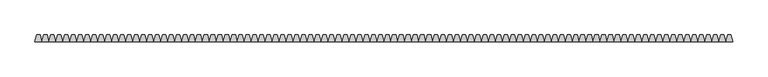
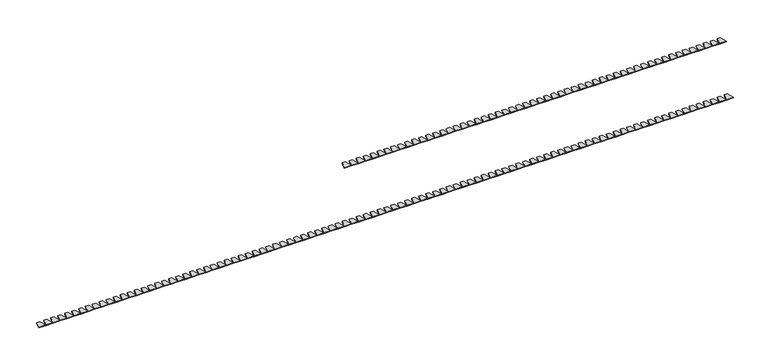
"""IFC4 building model written with IfcOpenShell, lengths in millimetres: duct fitting geometry, Полная крышка шириной 180 мм - для кабель-канала DLP 65x195 - 2м - белый : Полная крышка шириной 180 мм - для кабель-канала DLP 65x195 - 2м - белый."""

from ifc_helpers import new_model, si_unit, frame, origin, place, context, project, spatial, polyline, outline, extrude, source, transform, mapped, element, save


def duct_fitting_515ab3ab(model_context):
    return source(origin(), model_context, "Body", "SweptSolid", [
        extrude(outline(polyline([(974.6410162, 20.0), (980.0, 0.0), (960.0, 0.0), (965.7349077, 20.0), (974.6410162, 20.0)])), frame((0.0, 0.0, -90.0), z_axis=(0.0, 0.0, 1.0), x_axis=(1.0, 0.0, 0.0)), (0.0, 0.0, 1.0), 2.0),
        extrude(outline(polyline([(954.6410162, 20.0), (960.0, 0.0), (940.0, 0.0), (945.7349077, 20.0), (954.6410162, 20.0)])), frame((0.0, 0.0, -90.0), z_axis=(0.0, 0.0, 1.0), x_axis=(1.0, 0.0, 0.0)), (0.0, 0.0, 1.0), 2.0),
        extrude(outline(polyline([(934.6410162, 20.0), (940.0, 0.0), (920.0, 0.0), (925.7349077, 20.0), (934.6410162, 20.0)])), frame((0.0, 0.0, -90.0), z_axis=(0.0, 0.0, 1.0), x_axis=(1.0, 0.0, 0.0)), (0.0, 0.0, 1.0), 2.0),
        extrude(outline(polyline([(914.6410162, 20.0), (920.0, 0.0), (900.0, 0.0), (905.7349077, 20.0), (914.6410162, 20.0)])), frame((0.0, 0.0, -90.0), z_axis=(0.0, 0.0, 1.0), x_axis=(1.0, 0.0, 0.0)), (0.0, 0.0, 1.0), 2.0),
        extrude(outline(polyline([(894.6410162, 20.0), (900.0, 0.0), (880.0, 0.0), (885.7349077, 20.0), (894.6410162, 20.0)])), frame((0.0, 0.0, -90.0), z_axis=(0.0, 0.0, 1.0), x_axis=(1.0, 0.0, 0.0)), (0.0, 0.0, 1.0), 2.0),
        extrude(outline(polyline([(874.6410162, 20.0), (880.0, 0.0), (860.0, 0.0), (865.7349077, 20.0), (874.6410162, 20.0)])), frame((0.0, 0.0, -90.0), z_axis=(0.0, 0.0, 1.0), x_axis=(1.0, 0.0, 0.0)), (0.0, 0.0, 1.0), 2.0),
        extrude(outline(polyline([(854.6410162, 20.0), (860.0, 0.0), (840.0, 0.0), (845.7349077, 20.0), (854.6410162, 20.0)])), frame((0.0, 0.0, -90.0), z_axis=(0.0, 0.0, 1.0), x_axis=(1.0, 0.0, 0.0)), (0.0, 0.0, 1.0), 2.0),
        extrude(outline(polyline([(834.6410162, 20.0), (840.0, 0.0), (820.0, 0.0), (825.7349077, 20.0), (834.6410162, 20.0)])), frame((0.0, 0.0, -90.0), z_axis=(0.0, 0.0, 1.0), x_axis=(1.0, 0.0, 0.0)), (0.0, 0.0, 1.0), 2.0),
        extrude(outline(polyline([(814.6410162, 20.0), (820.0, 0.0), (800.0, 0.0), (805.7349077, 20.0), (814.6410162, 20.0)])), frame((0.0, 0.0, -90.0), z_axis=(0.0, 0.0, 1.0), x_axis=(1.0, 0.0, 0.0)), (0.0, 0.0, 1.0), 2.0),
        extrude(outline(polyline([(794.6410162, 20.0), (800.0, 0.0), (780.0, 0.0), (785.7349077, 20.0), (794.6410162, 20.0)])), frame((0.0, 0.0, -90.0), z_axis=(0.0, 0.0, 1.0), x_axis=(1.0, 0.0, 0.0)), (0.0, 0.0, 1.0), 2.0),
        extrude(outline(polyline([(774.6410162, 20.0), (780.0, 0.0), (760.0, 0.0), (765.7349077, 20.0), (774.6410162, 20.0)])), frame((0.0, 0.0, -90.0), z_axis=(0.0, 0.0, 1.0), x_axis=(1.0, 0.0, 0.0)), (0.0, 0.0, 1.0), 2.0),
        extrude(outline(polyline([(754.6410162, 20.0), (760.0, 0.0), (740.0, 0.0), (745.7349077, 20.0), (754.6410162, 20.0)])), frame((0.0, 0.0, -90.0), z_axis=(0.0, 0.0, 1.0), x_axis=(1.0, 0.0, 0.0)), (0.0, 0.0, 1.0), 2.0),
        extrude(outline(polyline([(734.6410162, 20.0), (740.0, 0.0), (720.0, 0.0), (725.7349077, 20.0), (734.6410162, 20.0)])), frame((0.0, 0.0, -90.0), z_axis=(0.0, 0.0, 1.0), x_axis=(1.0, 0.0, 0.0)), (0.0, 0.0, 1.0), 2.0),
        extrude(outline(polyline([(714.6410162, 20.0), (720.0, 0.0), (700.0, 0.0), (705.7349077, 20.0), (714.6410162, 20.0)])), frame((0.0, 0.0, -90.0), z_axis=(0.0, 0.0, 1.0), x_axis=(1.0, 0.0, 0.0)), (0.0, 0.0, 1.0), 2.0),
        extrude(outline(polyline([(694.6410162, 20.0), (700.0, 0.0), (680.0, 0.0), (685.7349077, 20.0), (694.6410162, 20.0)])), frame((0.0, 0.0, -90.0), z_axis=(0.0, 0.0, 1.0), x_axis=(1.0, 0.0, 0.0)), (0.0, 0.0, 1.0), 2.0),
        extrude(outline(polyline([(674.6410162, 20.0), (680.0, 0.0), (660.0, 0.0), (665.7349077, 20.0), (674.6410162, 20.0)])), frame((0.0, 0.0, -90.0), z_axis=(0.0, 0.0, 1.0), x_axis=(1.0, 0.0, 0.0)), (0.0, 0.0, 1.0), 2.0),
        extrude(outline(polyline([(654.6410162, 20.0), (660.0, 0.0), (640.0, 0.0), (645.7349077, 20.0), (654.6410162, 20.0)])), frame((0.0, 0.0, -90.0), z_axis=(0.0, 0.0, 1.0), x_axis=(1.0, 0.0, 0.0)), (0.0, 0.0, 1.0), 2.0),
        extrude(outline(polyline([(634.6410162, 20.0), (640.0, 0.0), (620.0, 0.0), (625.7349077, 20.0), (634.6410162, 20.0)])), frame((0.0, 0.0, -90.0), z_axis=(0.0, 0.0, 1.0), x_axis=(1.0, 0.0, 0.0)), (0.0, 0.0, 1.0), 2.0),
        extrude(outline(polyline([(614.6410162, 20.0), (620.0, 0.0), (600.0, 0.0), (605.7349077, 20.0), (614.6410162, 20.0)])), frame((0.0, 0.0, -90.0), z_axis=(0.0, 0.0, 1.0), x_axis=(1.0, 0.0, 0.0)), (0.0, 0.0, 1.0), 2.0),
        extrude(outline(polyline([(594.6410162, 20.0), (600.0, 0.0), (580.0, 0.0), (585.7349077, 20.0), (594.6410162, 20.0)])), frame((0.0, 0.0, -90.0), z_axis=(0.0, 0.0, 1.0), x_axis=(1.0, 0.0, 0.0)), (0.0, 0.0, 1.0), 2.0),
        extrude(outline(polyline([(574.6410162, 20.0), (580.0, 0.0), (560.0, 0.0), (565.7349077, 20.0), (574.6410162, 20.0)])), frame((0.0, 0.0, -90.0), z_axis=(0.0, 0.0, 1.0), x_axis=(1.0, 0.0, 0.0)), (0.0, 0.0, 1.0), 2.0),
        extrude(outline(polyline([(554.6410162, 20.0), (560.0, 0.0), (540.0, 0.0), (545.7349077, 20.0), (554.6410162, 20.0)])), frame((0.0, 0.0, -90.0), z_axis=(0.0, 0.0, 1.0), x_axis=(1.0, 0.0, 0.0)), (0.0, 0.0, 1.0), 2.0),
        extrude(outline(polyline([(534.6410162, 20.0), (540.0, 0.0), (520.0, 0.0), (525.7349077, 20.0), (534.6410162, 20.0)])), frame((0.0, 0.0, -90.0), z_axis=(0.0, 0.0, 1.0), x_axis=(1.0, 0.0, 0.0)), (0.0, 0.0, 1.0), 2.0),
        extrude(outline(polyline([(514.6410162, 20.0), (520.0, 0.0), (500.0, 0.0), (505.7349077, 20.0), (514.6410162, 20.0)])), frame((0.0, 0.0, -90.0), z_axis=(0.0, 0.0, 1.0), x_axis=(1.0, 0.0, 0.0)), (0.0, 0.0, 1.0), 2.0),
        extrude(outline(polyline([(494.6410162, 20.0), (500.0, 0.0), (480.0, 0.0), (485.7349077, 20.0), (494.6410162, 20.0)])), frame((0.0, 0.0, -90.0), z_axis=(0.0, 0.0, 1.0), x_axis=(1.0, 0.0, 0.0)), (0.0, 0.0, 1.0), 2.0),
        extrude(outline(polyline([(474.6410162, 20.0), (480.0, 0.0), (460.0, 0.0), (465.7349077, 20.0), (474.6410162, 20.0)])), frame((0.0, 0.0, -90.0), z_axis=(0.0, 0.0, 1.0), x_axis=(1.0, 0.0, 0.0)), (0.0, 0.0, 1.0), 2.0),
        extrude(outline(polyline([(454.6410162, 20.0), (460.0, 0.0), (440.0, 0.0), (445.7349077, 20.0), (454.6410162, 20.0)])), frame((0.0, 0.0, -90.0), z_axis=(0.0, 0.0, 1.0), x_axis=(1.0, 0.0, 0.0)), (0.0, 0.0, 1.0), 2.0),
        extrude(outline(polyline([(434.6410162, 20.0), (440.0, 0.0), (420.0, 0.0), (425.7349077, 20.0), (434.6410162, 20.0)])), frame((0.0, 0.0, -90.0), z_axis=(0.0, 0.0, 1.0), x_axis=(1.0, 0.0, 0.0)), (0.0, 0.0, 1.0), 2.0),
        extrude(outline(polyline([(414.6410162, 20.0), (420.0, 0.0), (400.0, 0.0), (405.7349077, 20.0), (414.6410162, 20.0)])), frame((0.0, 0.0, -90.0), z_axis=(0.0, 0.0, 1.0), x_axis=(1.0, 0.0, 0.0)), (0.0, 0.0, 1.0), 2.0),
        extrude(outline(polyline([(394.6410162, 20.0), (400.0, 0.0), (380.0, 0.0), (385.7349077, 20.0), (394.6410162, 20.0)])), frame((0.0, 0.0, -90.0), z_axis=(0.0, 0.0, 1.0), x_axis=(1.0, 0.0, 0.0)), (0.0, 0.0, 1.0), 2.0),
        extrude(outline(polyline([(374.6410162, 20.0), (380.0, 0.0), (360.0, 0.0), (365.7349077, 20.0), (374.6410162, 20.0)])), frame((0.0, 0.0, -90.0), z_axis=(0.0, 0.0, 1.0), x_axis=(1.0, 0.0, 0.0)), (0.0, 0.0, 1.0), 2.0),
        extrude(outline(polyline([(354.6410162, 20.0), (360.0, 0.0), (340.0, 0.0), (345.7349077, 20.0), (354.6410162, 20.0)])), frame((0.0, 0.0, -90.0), z_axis=(0.0, 0.0, 1.0), x_axis=(1.0, 0.0, 0.0)), (0.0, 0.0, 1.0), 2.0),
        extrude(outline(polyline([(334.6410162, 20.0), (340.0, 0.0), (320.0, 0.0), (325.7349077, 20.0), (334.6410162, 20.0)])), frame((0.0, 0.0, -90.0), z_axis=(0.0, 0.0, 1.0), x_axis=(1.0, 0.0, 0.0)), (0.0, 0.0, 1.0), 2.0),
        extrude(outline(polyline([(314.6410162, 20.0), (320.0, 0.0), (300.0, 0.0), (305.7349077, 20.0), (314.6410162, 20.0)])), frame((0.0, 0.0, -90.0), z_axis=(0.0, 0.0, 1.0), x_axis=(1.0, 0.0, 0.0)), (0.0, 0.0, 1.0), 2.0),
        extrude(outline(polyline([(294.6410162, 20.0), (300.0, 0.0), (280.0, 0.0), (285.7349077, 20.0), (294.6410162, 20.0)])), frame((0.0, 0.0, -90.0), z_axis=(0.0, 0.0, 1.0), x_axis=(1.0, 0.0, 0.0)), (0.0, 0.0, 1.0), 2.0),
        extrude(outline(polyline([(274.6410162, 20.0), (280.0, 0.0), (260.0, 0.0), (265.7349077, 20.0), (274.6410162, 20.0)])), frame((0.0, 0.0, -90.0), z_axis=(0.0, 0.0, 1.0), x_axis=(1.0, 0.0, 0.0)), (0.0, 0.0, 1.0), 2.0),
        extrude(outline(polyline([(254.6410162, 20.0), (260.0, 0.0), (240.0, 0.0), (245.7349077, 20.0), (254.6410162, 20.0)])), frame((0.0, 0.0, -90.0), z_axis=(0.0, 0.0, 1.0), x_axis=(1.0, 0.0, 0.0)), (0.0, 0.0, 1.0), 2.0),
        extrude(outline(polyline([(234.6410162, 20.0), (240.0, 0.0), (220.0, 0.0), (225.7349077, 20.0), (234.6410162, 20.0)])), frame((0.0, 0.0, -90.0), z_axis=(0.0, 0.0, 1.0), x_axis=(1.0, 0.0, 0.0)), (0.0, 0.0, 1.0), 2.0),
        extrude(outline(polyline([(214.6410162, 20.0), (220.0, 0.0), (200.0, 0.0), (205.7349077, 20.0), (214.6410162, 20.0)])), frame((0.0, 0.0, -90.0), z_axis=(0.0, 0.0, 1.0), x_axis=(1.0, 0.0, 0.0)), (0.0, 0.0, 1.0), 2.0),
        extrude(outline(polyline([(194.6410162, 20.0), (200.0, 0.0), (180.0, 0.0), (185.7349077, 20.0), (194.6410162, 20.0)])), frame((0.0, 0.0, -90.0), z_axis=(0.0, 0.0, 1.0), x_axis=(1.0, 0.0, 0.0)), (0.0, 0.0, 1.0), 2.0),
        extrude(outline(polyline([(174.6410162, 20.0), (180.0, 0.0), (160.0, 0.0), (165.7349077, 20.0), (174.6410162, 20.0)])), frame((0.0, 0.0, -90.0), z_axis=(0.0, 0.0, 1.0), x_axis=(1.0, 0.0, 0.0)), (0.0, 0.0, 1.0), 2.0),
        extrude(outline(polyline([(154.6410162, 20.0), (160.0, 0.0), (140.0, 0.0), (145.7349077, 20.0), (154.6410162, 20.0)])), frame((0.0, 0.0, -90.0), z_axis=(0.0, 0.0, 1.0), x_axis=(1.0, 0.0, 0.0)), (0.0, 0.0, 1.0), 2.0),
        extrude(outline(polyline([(134.6410162, 20.0), (140.0, 0.0), (120.0, 0.0), (125.7349077, 20.0), (134.6410162, 20.0)])), frame((0.0, 0.0, -90.0), z_axis=(0.0, 0.0, 1.0), x_axis=(1.0, 0.0, 0.0)), (0.0, 0.0, 1.0), 2.0),
        extrude(outline(polyline([(114.6410162, 20.0), (120.0, 0.0), (100.0, 0.0), (105.7349077, 20.0), (114.6410162, 20.0)])), frame((0.0, 0.0, -90.0), z_axis=(0.0, 0.0, 1.0), x_axis=(1.0, 0.0, 0.0)), (0.0, 0.0, 1.0), 2.0),
        extrude(outline(polyline([(94.6410162, 20.0), (100.0, 0.0), (80.0, 0.0), (85.7349077, 20.0), (94.6410162, 20.0)])), frame((0.0, 0.0, -90.0), z_axis=(0.0, 0.0, 1.0), x_axis=(1.0, 0.0, 0.0)), (0.0, 0.0, 1.0), 2.0),
        extrude(outline(polyline([(74.6410162, 20.0), (80.0, 0.0), (60.0, 0.0), (65.7349077, 20.0), (74.6410162, 20.0)])), frame((0.0, 0.0, -90.0), z_axis=(0.0, 0.0, 1.0), x_axis=(1.0, 0.0, 0.0)), (0.0, 0.0, 1.0), 2.0),
        extrude(outline(polyline([(54.6410162, 20.0), (60.0, 0.0), (40.0, 0.0), (45.7349077, 20.0), (54.6410162, 20.0)])), frame((0.0, 0.0, -90.0), z_axis=(0.0, 0.0, 1.0), x_axis=(1.0, 0.0, 0.0)), (0.0, 0.0, 1.0), 2.0),
        extrude(outline(polyline([(34.6410162, 20.0), (40.0, 0.0), (20.0, 0.0), (25.7349077, 20.0), (34.6410162, 20.0)])), frame((0.0, 0.0, -90.0), z_axis=(0.0, 0.0, 1.0), x_axis=(1.0, 0.0, 0.0)), (0.0, 0.0, 1.0), 2.0),
        extrude(outline(polyline([(14.6410162, 20.0), (20.0, 0.0), (0.0, 0.0), (5.7349077, 20.0), (14.6410162, 20.0)])), frame((0.0, 0.0, -90.0), z_axis=(0.0, 0.0, 1.0), x_axis=(1.0, 0.0, 0.0)), (0.0, 0.0, 1.0), 2.0),
        extrude(outline(polyline([(-5.3589838, 20.0), (0.0, 0.0), (-20.0, 0.0), (-14.2650923, 20.0), (-5.3589838, 20.0)])), frame((0.0, 0.0, -90.0), z_axis=(0.0, 0.0, 1.0), x_axis=(1.0, 0.0, 0.0)), (0.0, 0.0, 1.0), 2.0),
        extrude(outline(polyline([(-25.3589838, 20.0), (-20.0, 0.0), (-40.0, 0.0), (-34.2650923, 20.0), (-25.3589838, 20.0)])), frame((0.0, 0.0, -90.0), z_axis=(0.0, 0.0, 1.0), x_axis=(1.0, 0.0, 0.0)), (0.0, 0.0, 1.0), 2.0),
        extrude(outline(polyline([(-45.3589838, 20.0), (-40.0, 0.0), (-60.0, 0.0), (-54.2650923, 20.0), (-45.3589838, 20.0)])), frame((0.0, 0.0, -90.0), z_axis=(0.0, 0.0, 1.0), x_axis=(1.0, 0.0, 0.0)), (0.0, 0.0, 1.0), 2.0),
        extrude(outline(polyline([(-65.3589838, 20.0), (-60.0, 0.0), (-80.0, 0.0), (-74.2650923, 20.0), (-65.3589838, 20.0)])), frame((0.0, 0.0, -90.0), z_axis=(0.0, 0.0, 1.0), x_axis=(1.0, 0.0, 0.0)), (0.0, 0.0, 1.0), 2.0),
        extrude(outline(polyline([(-85.3589838, 20.0), (-80.0, 0.0), (-100.0, 0.0), (-94.2650923, 20.0), (-85.3589838, 20.0)])), frame((0.0, 0.0, -90.0), z_axis=(0.0, 0.0, 1.0), x_axis=(1.0, 0.0, 0.0)), (0.0, 0.0, 1.0), 2.0),
        extrude(outline(polyline([(-105.3589838, 20.0), (-100.0, 0.0), (-120.0, 0.0), (-114.2650923, 20.0), (-105.3589838, 20.0)])), frame((0.0, 0.0, -90.0), z_axis=(0.0, 0.0, 1.0), x_axis=(1.0, 0.0, 0.0)), (0.0, 0.0, 1.0), 2.0),
        extrude(outline(polyline([(-125.3589838, 20.0), (-120.0, 0.0), (-140.0, 0.0), (-134.2650923, 20.0), (-125.3589838, 20.0)])), frame((0.0, 0.0, -90.0), z_axis=(0.0, 0.0, 1.0), x_axis=(1.0, 0.0, 0.0)), (0.0, 0.0, 1.0), 2.0),
        extrude(outline(polyline([(-145.3589838, 20.0), (-140.0, 0.0), (-160.0, 0.0), (-154.2650923, 20.0), (-145.3589838, 20.0)])), frame((0.0, 0.0, -90.0), z_axis=(0.0, 0.0, 1.0), x_axis=(1.0, 0.0, 0.0)), (0.0, 0.0, 1.0), 2.0),
        extrude(outline(polyline([(-165.3589838, 20.0), (-160.0, 0.0), (-180.0, 0.0), (-174.2650923, 20.0), (-165.3589838, 20.0)])), frame((0.0, 0.0, -90.0), z_axis=(0.0, 0.0, 1.0), x_axis=(1.0, 0.0, 0.0)), (0.0, 0.0, 1.0), 2.0),
        extrude(outline(polyline([(-185.3589838, 20.0), (-180.0, 0.0), (-200.0, 0.0), (-194.2650923, 20.0), (-185.3589838, 20.0)])), frame((0.0, 0.0, -90.0), z_axis=(0.0, 0.0, 1.0), x_axis=(1.0, 0.0, 0.0)), (0.0, 0.0, 1.0), 2.0),
        extrude(outline(polyline([(-205.3589838, 20.0), (-200.0, 0.0), (-220.0, 0.0), (-214.2650923, 20.0), (-205.3589838, 20.0)])), frame((0.0, 0.0, -90.0), z_axis=(0.0, 0.0, 1.0), x_axis=(1.0, 0.0, 0.0)), (0.0, 0.0, 1.0), 2.0),
        extrude(outline(polyline([(-225.3589838, 20.0), (-220.0, 0.0), (-240.0, 0.0), (-234.2650923, 20.0), (-225.3589838, 20.0)])), frame((0.0, 0.0, -90.0), z_axis=(0.0, 0.0, 1.0), x_axis=(1.0, 0.0, 0.0)), (0.0, 0.0, 1.0), 2.0),
        extrude(outline(polyline([(-245.3589838, 20.0), (-240.0, 0.0), (-260.0, 0.0), (-254.2650923, 20.0), (-245.3589838, 20.0)])), frame((0.0, 0.0, -90.0), z_axis=(0.0, 0.0, 1.0), x_axis=(1.0, 0.0, 0.0)), (0.0, 0.0, 1.0), 2.0),
        extrude(outline(polyline([(-265.3589838, 20.0), (-260.0, 0.0), (-280.0, 0.0), (-274.2650923, 20.0), (-265.3589838, 20.0)])), frame((0.0, 0.0, -90.0), z_axis=(0.0, 0.0, 1.0), x_axis=(1.0, 0.0, 0.0)), (0.0, 0.0, 1.0), 2.0),
        extrude(outline(polyline([(-285.3589838, 20.0), (-280.0, 0.0), (-300.0, 0.0), (-294.2650923, 20.0), (-285.3589838, 20.0)])), frame((0.0, 0.0, -90.0), z_axis=(0.0, 0.0, 1.0), x_axis=(1.0, 0.0, 0.0)), (0.0, 0.0, 1.0), 2.0),
        extrude(outline(polyline([(-305.3589838, 20.0), (-300.0, 0.0), (-320.0, 0.0), (-314.2650923, 20.0), (-305.3589838, 20.0)])), frame((0.0, 0.0, -90.0), z_axis=(0.0, 0.0, 1.0), x_axis=(1.0, 0.0, 0.0)), (0.0, 0.0, 1.0), 2.0),
        extrude(outline(polyline([(-325.3589838, 20.0), (-320.0, 0.0), (-340.0, 0.0), (-334.2650923, 20.0), (-325.3589838, 20.0)])), frame((0.0, 0.0, -90.0), z_axis=(0.0, 0.0, 1.0), x_axis=(1.0, 0.0, 0.0)), (0.0, 0.0, 1.0), 2.0),
        extrude(outline(polyline([(-345.3589838, 20.0), (-340.0, 0.0), (-360.0, 0.0), (-354.2650923, 20.0), (-345.3589838, 20.0)])), frame((0.0, 0.0, -90.0), z_axis=(0.0, 0.0, 1.0), x_axis=(1.0, 0.0, 0.0)), (0.0, 0.0, 1.0), 2.0),
        extrude(outline(polyline([(-365.3589838, 20.0), (-360.0, 0.0), (-380.0, 0.0), (-374.2650923, 20.0), (-365.3589838, 20.0)])), frame((0.0, 0.0, -90.0), z_axis=(0.0, 0.0, 1.0), x_axis=(1.0, 0.0, 0.0)), (0.0, 0.0, 1.0), 2.0),
        extrude(outline(polyline([(-385.3589838, 20.0), (-380.0, 0.0), (-400.0, 0.0), (-394.2650923, 20.0), (-385.3589838, 20.0)])), frame((0.0, 0.0, -90.0), z_axis=(0.0, 0.0, 1.0), x_axis=(1.0, 0.0, 0.0)), (0.0, 0.0, 1.0), 2.0),
        extrude(outline(polyline([(-405.3589838, 20.0), (-400.0, 0.0), (-420.0, 0.0), (-414.2650923, 20.0), (-405.3589838, 20.0)])), frame((0.0, 0.0, -90.0), z_axis=(0.0, 0.0, 1.0), x_axis=(1.0, 0.0, 0.0)), (0.0, 0.0, 1.0), 2.0),
        extrude(outline(polyline([(-425.3589838, 20.0), (-420.0, 0.0), (-440.0, 0.0), (-434.2650923, 20.0), (-425.3589838, 20.0)])), frame((0.0, 0.0, -90.0), z_axis=(0.0, 0.0, 1.0), x_axis=(1.0, 0.0, 0.0)), (0.0, 0.0, 1.0), 2.0),
        extrude(outline(polyline([(-445.3589838, 20.0), (-440.0, 0.0), (-460.0, 0.0), (-454.2650923, 20.0), (-445.3589838, 20.0)])), frame((0.0, 0.0, -90.0), z_axis=(0.0, 0.0, 1.0), x_axis=(1.0, 0.0, 0.0)), (0.0, 0.0, 1.0), 2.0),
        extrude(outline(polyline([(-465.3589838, 20.0), (-460.0, 0.0), (-480.0, 0.0), (-474.2650923, 20.0), (-465.3589838, 20.0)])), frame((0.0, 0.0, -90.0), z_axis=(0.0, 0.0, 1.0), x_axis=(1.0, 0.0, 0.0)), (0.0, 0.0, 1.0), 2.0),
        extrude(outline(polyline([(-485.3589838, 20.0), (-480.0, 0.0), (-500.0, 0.0), (-494.2650923, 20.0), (-485.3589838, 20.0)])), frame((0.0, 0.0, -90.0), z_axis=(0.0, 0.0, 1.0), x_axis=(1.0, 0.0, 0.0)), (0.0, 0.0, 1.0), 2.0),
        extrude(outline(polyline([(-505.3589838, 20.0), (-500.0, 0.0), (-520.0, 0.0), (-514.2650923, 20.0), (-505.3589838, 20.0)])), frame((0.0, 0.0, -90.0), z_axis=(0.0, 0.0, 1.0), x_axis=(1.0, 0.0, 0.0)), (0.0, 0.0, 1.0), 2.0),
        extrude(outline(polyline([(-525.3589838, 20.0), (-520.0, 0.0), (-540.0, 0.0), (-534.2650923, 20.0), (-525.3589838, 20.0)])), frame((0.0, 0.0, -90.0), z_axis=(0.0, 0.0, 1.0), x_axis=(1.0, 0.0, 0.0)), (0.0, 0.0, 1.0), 2.0),
        extrude(outline(polyline([(-545.3589838, 20.0), (-540.0, 0.0), (-560.0, 0.0), (-554.2650923, 20.0), (-545.3589838, 20.0)])), frame((0.0, 0.0, -90.0), z_axis=(0.0, 0.0, 1.0), x_axis=(1.0, 0.0, 0.0)), (0.0, 0.0, 1.0), 2.0),
        extrude(outline(polyline([(-565.3589838, 20.0), (-560.0, 0.0), (-580.0, 0.0), (-574.2650923, 20.0), (-565.3589838, 20.0)])), frame((0.0, 0.0, -90.0), z_axis=(0.0, 0.0, 1.0), x_axis=(1.0, 0.0, 0.0)), (0.0, 0.0, 1.0), 2.0),
        extrude(outline(polyline([(-585.3589838, 20.0), (-580.0, 0.0), (-600.0, 0.0), (-594.2650923, 20.0), (-585.3589838, 20.0)])), frame((0.0, 0.0, -90.0), z_axis=(0.0, 0.0, 1.0), x_axis=(1.0, 0.0, 0.0)), (0.0, 0.0, 1.0), 2.0),
        extrude(outline(polyline([(-605.3589838, 20.0), (-600.0, 0.0), (-620.0, 0.0), (-614.2650923, 20.0), (-605.3589838, 20.0)])), frame((0.0, 0.0, -90.0), z_axis=(0.0, 0.0, 1.0), x_axis=(1.0, 0.0, 0.0)), (0.0, 0.0, 1.0), 2.0),
        extrude(outline(polyline([(-625.3589838, 20.0), (-620.0, 0.0), (-640.0, 0.0), (-634.2650923, 20.0), (-625.3589838, 20.0)])), frame((0.0, 0.0, -90.0), z_axis=(0.0, 0.0, 1.0), x_axis=(1.0, 0.0, 0.0)), (0.0, 0.0, 1.0), 2.0),
        extrude(outline(polyline([(-645.3589838, 20.0), (-640.0, 0.0), (-660.0, 0.0), (-654.2650923, 20.0), (-645.3589838, 20.0)])), frame((0.0, 0.0, -90.0), z_axis=(0.0, 0.0, 1.0), x_axis=(1.0, 0.0, 0.0)), (0.0, 0.0, 1.0), 2.0),
        extrude(outline(polyline([(-665.3589838, 20.0), (-660.0, 0.0), (-680.0, 0.0), (-674.2650923, 20.0), (-665.3589838, 20.0)])), frame((0.0, 0.0, -90.0), z_axis=(0.0, 0.0, 1.0), x_axis=(1.0, 0.0, 0.0)), (0.0, 0.0, 1.0), 2.0),
        extrude(outline(polyline([(-685.3589838, 20.0), (-680.0, 0.0), (-700.0, 0.0), (-694.2650923, 20.0), (-685.3589838, 20.0)])), frame((0.0, 0.0, -90.0), z_axis=(0.0, 0.0, 1.0), x_axis=(1.0, 0.0, 0.0)), (0.0, 0.0, 1.0), 2.0),
        extrude(outline(polyline([(-705.3589838, 20.0), (-700.0, 0.0), (-720.0, 0.0), (-714.2650923, 20.0), (-705.3589838, 20.0)])), frame((0.0, 0.0, -90.0), z_axis=(0.0, 0.0, 1.0), x_axis=(1.0, 0.0, 0.0)), (0.0, 0.0, 1.0), 2.0),
        extrude(outline(polyline([(-725.3589838, 20.0), (-720.0, 0.0), (-740.0, 0.0), (-734.2650923, 20.0), (-725.3589838, 20.0)])), frame((0.0, 0.0, -90.0), z_axis=(0.0, 0.0, 1.0), x_axis=(1.0, 0.0, 0.0)), (0.0, 0.0, 1.0), 2.0),
        extrude(outline(polyline([(-745.3589838, 20.0), (-740.0, 0.0), (-760.0, 0.0), (-754.2650923, 20.0), (-745.3589838, 20.0)])), frame((0.0, 0.0, -90.0), z_axis=(0.0, 0.0, 1.0), x_axis=(1.0, 0.0, 0.0)), (0.0, 0.0, 1.0), 2.0),
        extrude(outline(polyline([(-765.3589838, 20.0), (-760.0, 0.0), (-780.0, 0.0), (-774.2650923, 20.0), (-765.3589838, 20.0)])), frame((0.0, 0.0, -90.0), z_axis=(0.0, 0.0, 1.0), x_axis=(1.0, 0.0, 0.0)), (0.0, 0.0, 1.0), 2.0),
        extrude(outline(polyline([(-785.3589838, 20.0), (-780.0, 0.0), (-800.0, 0.0), (-794.2650923, 20.0), (-785.3589838, 20.0)])), frame((0.0, 0.0, -90.0), z_axis=(0.0, 0.0, 1.0), x_axis=(1.0, 0.0, 0.0)), (0.0, 0.0, 1.0), 2.0),
        extrude(outline(polyline([(-805.3589838, 20.0), (-800.0, 0.0), (-820.0, 0.0), (-814.2650923, 20.0), (-805.3589838, 20.0)])), frame((0.0, 0.0, -90.0), z_axis=(0.0, 0.0, 1.0), x_axis=(1.0, 0.0, 0.0)), (0.0, 0.0, 1.0), 2.0),
        extrude(outline(polyline([(-825.3589838, 20.0), (-820.0, 0.0), (-840.0, 0.0), (-834.2650923, 20.0), (-825.3589838, 20.0)])), frame((0.0, 0.0, -90.0), z_axis=(0.0, 0.0, 1.0), x_axis=(1.0, 0.0, 0.0)), (0.0, 0.0, 1.0), 2.0),
        extrude(outline(polyline([(-845.3589838, 20.0), (-840.0, 0.0), (-860.0, 0.0), (-854.2650923, 20.0), (-845.3589838, 20.0)])), frame((0.0, 0.0, -90.0), z_axis=(0.0, 0.0, 1.0), x_axis=(1.0, 0.0, 0.0)), (0.0, 0.0, 1.0), 2.0),
        extrude(outline(polyline([(-865.3589838, 20.0), (-860.0, 0.0), (-880.0, 0.0), (-874.2650923, 20.0), (-865.3589838, 20.0)])), frame((0.0, 0.0, -90.0), z_axis=(0.0, 0.0, 1.0), x_axis=(1.0, 0.0, 0.0)), (0.0, 0.0, 1.0), 2.0),
        extrude(outline(polyline([(-885.3589838, 20.0), (-880.0, 0.0), (-900.0, 0.0), (-894.2650923, 20.0), (-885.3589838, 20.0)])), frame((0.0, 0.0, -90.0), z_axis=(0.0, 0.0, 1.0), x_axis=(1.0, 0.0, 0.0)), (0.0, 0.0, 1.0), 2.0),
        extrude(outline(polyline([(-905.3589838, 20.0), (-900.0, 0.0), (-920.0, 0.0), (-914.2650923, 20.0), (-905.3589838, 20.0)])), frame((0.0, 0.0, -90.0), z_axis=(0.0, 0.0, 1.0), x_axis=(1.0, 0.0, 0.0)), (0.0, 0.0, 1.0), 2.0),
        extrude(outline(polyline([(-925.3589838, 20.0), (-920.0, 0.0), (-940.0, 0.0), (-934.2650923, 20.0), (-925.3589838, 20.0)])), frame((0.0, 0.0, -90.0), z_axis=(0.0, 0.0, 1.0), x_axis=(1.0, 0.0, 0.0)), (0.0, 0.0, 1.0), 2.0),
        extrude(outline(polyline([(-945.3589838, 20.0), (-940.0, 0.0), (-960.0, 0.0), (-954.2650923, 20.0), (-945.3589838, 20.0)])), frame((0.0, 0.0, -90.0), z_axis=(0.0, 0.0, 1.0), x_axis=(1.0, 0.0, 0.0)), (0.0, 0.0, 1.0), 2.0),
        extrude(outline(polyline([(-965.3589838, 20.0), (-960.0, 0.0), (-980.0, 0.0), (-974.2650923, 20.0), (-965.3589838, 20.0)])), frame((0.0, 0.0, -90.0), z_axis=(0.0, 0.0, 1.0), x_axis=(1.0, 0.0, 0.0)), (0.0, 0.0, 1.0), 2.0),
        extrude(outline(polyline([(994.6410162, 20.0), (1000.0, 0.0), (980.0, 0.0), (985.7349077, 20.0), (994.6410162, 20.0)])), frame((0.0, 0.0, -90.0), z_axis=(0.0, 0.0, 1.0), x_axis=(1.0, 0.0, 0.0)), (0.0, 0.0, 1.0), 2.0),
        extrude(outline(polyline([(-985.3589838, 20.0), (-980.0, 0.0), (-1000.0, 0.0), (-994.2650923, 20.0), (-985.3589838, 20.0)])), frame((0.0, 0.0, -90.0), z_axis=(0.0, 0.0, 1.0), x_axis=(1.0, 0.0, 0.0)), (0.0, 0.0, 1.0), 2.0),
        extrude(outline(polyline([(974.6410162, 20.0), (980.0, 0.0), (960.0, 0.0), (965.7349077, 20.0), (974.6410162, 20.0)])), frame((0.0, 0.0, 88.0), z_axis=(0.0, 0.0, 1.0), x_axis=(1.0, 0.0, 0.0)), (0.0, 0.0, 1.0), 2.0),
        extrude(outline(polyline([(954.6410162, 20.0), (960.0, 0.0), (940.0, 0.0), (945.7349077, 20.0), (954.6410162, 20.0)])), frame((0.0, 0.0, 88.0), z_axis=(0.0, 0.0, 1.0), x_axis=(1.0, 0.0, 0.0)), (0.0, 0.0, 1.0), 2.0),
        extrude(outline(polyline([(934.6410162, 20.0), (940.0, 0.0), (920.0, 0.0), (925.7349077, 20.0), (934.6410162, 20.0)])), frame((0.0, 0.0, 88.0), z_axis=(0.0, 0.0, 1.0), x_axis=(1.0, 0.0, 0.0)), (0.0, 0.0, 1.0), 2.0),
        extrude(outline(polyline([(914.6410162, 20.0), (920.0, 0.0), (900.0, 0.0), (905.7349077, 20.0), (914.6410162, 20.0)])), frame((0.0, 0.0, 88.0), z_axis=(0.0, 0.0, 1.0), x_axis=(1.0, 0.0, 0.0)), (0.0, 0.0, 1.0), 2.0),
        extrude(outline(polyline([(894.6410162, 20.0), (900.0, 0.0), (880.0, 0.0), (885.7349077, 20.0), (894.6410162, 20.0)])), frame((0.0, 0.0, 88.0), z_axis=(0.0, 0.0, 1.0), x_axis=(1.0, 0.0, 0.0)), (0.0, 0.0, 1.0), 2.0),
        extrude(outline(polyline([(874.6410162, 20.0), (880.0, 0.0), (860.0, 0.0), (865.7349077, 20.0), (874.6410162, 20.0)])), frame((0.0, 0.0, 88.0), z_axis=(0.0, 0.0, 1.0), x_axis=(1.0, 0.0, 0.0)), (0.0, 0.0, 1.0), 2.0),
        extrude(outline(polyline([(854.6410162, 20.0), (860.0, 0.0), (840.0, 0.0), (845.7349077, 20.0), (854.6410162, 20.0)])), frame((0.0, 0.0, 88.0), z_axis=(0.0, 0.0, 1.0), x_axis=(1.0, 0.0, 0.0)), (0.0, 0.0, 1.0), 2.0),
        extrude(outline(polyline([(834.6410162, 20.0), (840.0, 0.0), (820.0, 0.0), (825.7349077, 20.0), (834.6410162, 20.0)])), frame((0.0, 0.0, 88.0), z_axis=(0.0, 0.0, 1.0), x_axis=(1.0, 0.0, 0.0)), (0.0, 0.0, 1.0), 2.0),
        extrude(outline(polyline([(814.6410162, 20.0), (820.0, 0.0), (800.0, 0.0), (805.7349077, 20.0), (814.6410162, 20.0)])), frame((0.0, 0.0, 88.0), z_axis=(0.0, 0.0, 1.0), x_axis=(1.0, 0.0, 0.0)), (0.0, 0.0, 1.0), 2.0),
        extrude(outline(polyline([(794.6410162, 20.0), (800.0, 0.0), (780.0, 0.0), (785.7349077, 20.0), (794.6410162, 20.0)])), frame((0.0, 0.0, 88.0), z_axis=(0.0, 0.0, 1.0), x_axis=(1.0, 0.0, 0.0)), (0.0, 0.0, 1.0), 2.0),
        extrude(outline(polyline([(774.6410162, 20.0), (780.0, 0.0), (760.0, 0.0), (765.7349077, 20.0), (774.6410162, 20.0)])), frame((0.0, 0.0, 88.0), z_axis=(0.0, 0.0, 1.0), x_axis=(1.0, 0.0, 0.0)), (0.0, 0.0, 1.0), 2.0),
        extrude(outline(polyline([(754.6410162, 20.0), (760.0, 0.0), (740.0, 0.0), (745.7349077, 20.0), (754.6410162, 20.0)])), frame((0.0, 0.0, 88.0), z_axis=(0.0, 0.0, 1.0), x_axis=(1.0, 0.0, 0.0)), (0.0, 0.0, 1.0), 2.0),
        extrude(outline(polyline([(734.6410162, 20.0), (740.0, 0.0), (720.0, 0.0), (725.7349077, 20.0), (734.6410162, 20.0)])), frame((0.0, 0.0, 88.0), z_axis=(0.0, 0.0, 1.0), x_axis=(1.0, 0.0, 0.0)), (0.0, 0.0, 1.0), 2.0),
        extrude(outline(polyline([(714.6410162, 20.0), (720.0, 0.0), (700.0, 0.0), (705.7349077, 20.0), (714.6410162, 20.0)])), frame((0.0, 0.0, 88.0), z_axis=(0.0, 0.0, 1.0), x_axis=(1.0, 0.0, 0.0)), (0.0, 0.0, 1.0), 2.0),
        extrude(outline(polyline([(694.6410162, 20.0), (700.0, 0.0), (680.0, 0.0), (685.7349077, 20.0), (694.6410162, 20.0)])), frame((0.0, 0.0, 88.0), z_axis=(0.0, 0.0, 1.0), x_axis=(1.0, 0.0, 0.0)), (0.0, 0.0, 1.0), 2.0),
        extrude(outline(polyline([(674.6410162, 20.0), (680.0, 0.0), (660.0, 0.0), (665.7349077, 20.0), (674.6410162, 20.0)])), frame((0.0, 0.0, 88.0), z_axis=(0.0, 0.0, 1.0), x_axis=(1.0, 0.0, 0.0)), (0.0, 0.0, 1.0), 2.0),
        extrude(outline(polyline([(654.6410162, 20.0), (660.0, 0.0), (640.0, 0.0), (645.7349077, 20.0), (654.6410162, 20.0)])), frame((0.0, 0.0, 88.0), z_axis=(0.0, 0.0, 1.0), x_axis=(1.0, 0.0, 0.0)), (0.0, 0.0, 1.0), 2.0),
        extrude(outline(polyline([(634.6410162, 20.0), (640.0, 0.0), (620.0, 0.0), (625.7349077, 20.0), (634.6410162, 20.0)])), frame((0.0, 0.0, 88.0), z_axis=(0.0, 0.0, 1.0), x_axis=(1.0, 0.0, 0.0)), (0.0, 0.0, 1.0), 2.0),
        extrude(outline(polyline([(614.6410162, 20.0), (620.0, 0.0), (600.0, 0.0), (605.7349077, 20.0), (614.6410162, 20.0)])), frame((0.0, 0.0, 88.0), z_axis=(0.0, 0.0, 1.0), x_axis=(1.0, 0.0, 0.0)), (0.0, 0.0, 1.0), 2.0),
        extrude(outline(polyline([(594.6410162, 20.0), (600.0, 0.0), (580.0, 0.0), (585.7349077, 20.0), (594.6410162, 20.0)])), frame((0.0, 0.0, 88.0), z_axis=(0.0, 0.0, 1.0), x_axis=(1.0, 0.0, 0.0)), (0.0, 0.0, 1.0), 2.0),
        extrude(outline(polyline([(574.6410162, 20.0), (580.0, 0.0), (560.0, 0.0), (565.7349077, 20.0), (574.6410162, 20.0)])), frame((0.0, 0.0, 88.0), z_axis=(0.0, 0.0, 1.0), x_axis=(1.0, 0.0, 0.0)), (0.0, 0.0, 1.0), 2.0),
        extrude(outline(polyline([(554.6410162, 20.0), (560.0, 0.0), (540.0, 0.0), (545.7349077, 20.0), (554.6410162, 20.0)])), frame((0.0, 0.0, 88.0), z_axis=(0.0, 0.0, 1.0), x_axis=(1.0, 0.0, 0.0)), (0.0, 0.0, 1.0), 2.0),
        extrude(outline(polyline([(534.6410162, 20.0), (540.0, 0.0), (520.0, 0.0), (525.7349077, 20.0), (534.6410162, 20.0)])), frame((0.0, 0.0, 88.0), z_axis=(0.0, 0.0, 1.0), x_axis=(1.0, 0.0, 0.0)), (0.0, 0.0, 1.0), 2.0),
        extrude(outline(polyline([(514.6410162, 20.0), (520.0, 0.0), (500.0, 0.0), (505.7349077, 20.0), (514.6410162, 20.0)])), frame((0.0, 0.0, 88.0), z_axis=(0.0, 0.0, 1.0), x_axis=(1.0, 0.0, 0.0)), (0.0, 0.0, 1.0), 2.0),
        extrude(outline(polyline([(494.6410162, 20.0), (500.0, 0.0), (480.0, 0.0), (485.7349077, 20.0), (494.6410162, 20.0)])), frame((0.0, 0.0, 88.0), z_axis=(0.0, 0.0, 1.0), x_axis=(1.0, 0.0, 0.0)), (0.0, 0.0, 1.0), 2.0),
        extrude(outline(polyline([(474.6410162, 20.0), (480.0, 0.0), (460.0, 0.0), (465.7349077, 20.0), (474.6410162, 20.0)])), frame((0.0, 0.0, 88.0), z_axis=(0.0, 0.0, 1.0), x_axis=(1.0, 0.0, 0.0)), (0.0, 0.0, 1.0), 2.0),
        extrude(outline(polyline([(454.6410162, 20.0), (460.0, 0.0), (440.0, 0.0), (445.7349077, 20.0), (454.6410162, 20.0)])), frame((0.0, 0.0, 88.0), z_axis=(0.0, 0.0, 1.0), x_axis=(1.0, 0.0, 0.0)), (0.0, 0.0, 1.0), 2.0),
        extrude(outline(polyline([(434.6410162, 20.0), (440.0, 0.0), (420.0, 0.0), (425.7349077, 20.0), (434.6410162, 20.0)])), frame((0.0, 0.0, 88.0), z_axis=(0.0, 0.0, 1.0), x_axis=(1.0, 0.0, 0.0)), (0.0, 0.0, 1.0), 2.0),
        extrude(outline(polyline([(414.6410162, 20.0), (420.0, 0.0), (400.0, 0.0), (405.7349077, 20.0), (414.6410162, 20.0)])), frame((0.0, 0.0, 88.0), z_axis=(0.0, 0.0, 1.0), x_axis=(1.0, 0.0, 0.0)), (0.0, 0.0, 1.0), 2.0),
        extrude(outline(polyline([(394.6410162, 20.0), (400.0, 0.0), (380.0, 0.0), (385.7349077, 20.0), (394.6410162, 20.0)])), frame((0.0, 0.0, 88.0), z_axis=(0.0, 0.0, 1.0), x_axis=(1.0, 0.0, 0.0)), (0.0, 0.0, 1.0), 2.0),
        extrude(outline(polyline([(374.6410162, 20.0), (380.0, 0.0), (360.0, 0.0), (365.7349077, 20.0), (374.6410162, 20.0)])), frame((0.0, 0.0, 88.0), z_axis=(0.0, 0.0, 1.0), x_axis=(1.0, 0.0, 0.0)), (0.0, 0.0, 1.0), 2.0),
        extrude(outline(polyline([(354.6410162, 20.0), (360.0, 0.0), (340.0, 0.0), (345.7349077, 20.0), (354.6410162, 20.0)])), frame((0.0, 0.0, 88.0), z_axis=(0.0, 0.0, 1.0), x_axis=(1.0, 0.0, 0.0)), (0.0, 0.0, 1.0), 2.0),
        extrude(outline(polyline([(334.6410162, 20.0), (340.0, 0.0), (320.0, 0.0), (325.7349077, 20.0), (334.6410162, 20.0)])), frame((0.0, 0.0, 88.0), z_axis=(0.0, 0.0, 1.0), x_axis=(1.0, 0.0, 0.0)), (0.0, 0.0, 1.0), 2.0),
        extrude(outline(polyline([(314.6410162, 20.0), (320.0, 0.0), (300.0, 0.0), (305.7349077, 20.0), (314.6410162, 20.0)])), frame((0.0, 0.0, 88.0), z_axis=(0.0, 0.0, 1.0), x_axis=(1.0, 0.0, 0.0)), (0.0, 0.0, 1.0), 2.0),
        extrude(outline(polyline([(294.6410162, 20.0), (300.0, 0.0), (280.0, 0.0), (285.7349077, 20.0), (294.6410162, 20.0)])), frame((0.0, 0.0, 88.0), z_axis=(0.0, 0.0, 1.0), x_axis=(1.0, 0.0, 0.0)), (0.0, 0.0, 1.0), 2.0),
        extrude(outline(polyline([(274.6410162, 20.0), (280.0, 0.0), (260.0, 0.0), (265.7349077, 20.0), (274.6410162, 20.0)])), frame((0.0, 0.0, 88.0), z_axis=(0.0, 0.0, 1.0), x_axis=(1.0, 0.0, 0.0)), (0.0, 0.0, 1.0), 2.0),
        extrude(outline(polyline([(254.6410162, 20.0), (260.0, 0.0), (240.0, 0.0), (245.7349077, 20.0), (254.6410162, 20.0)])), frame((0.0, 0.0, 88.0), z_axis=(0.0, 0.0, 1.0), x_axis=(1.0, 0.0, 0.0)), (0.0, 0.0, 1.0), 2.0),
        extrude(outline(polyline([(234.6410162, 20.0), (240.0, 0.0), (220.0, 0.0), (225.7349077, 20.0), (234.6410162, 20.0)])), frame((0.0, 0.0, 88.0), z_axis=(0.0, 0.0, 1.0), x_axis=(1.0, 0.0, 0.0)), (0.0, 0.0, 1.0), 2.0),
        extrude(outline(polyline([(214.6410162, 20.0), (220.0, 0.0), (200.0, 0.0), (205.7349077, 20.0), (214.6410162, 20.0)])), frame((0.0, 0.0, 88.0), z_axis=(0.0, 0.0, 1.0), x_axis=(1.0, 0.0, 0.0)), (0.0, 0.0, 1.0), 2.0),
        extrude(outline(polyline([(194.6410162, 20.0), (200.0, 0.0), (180.0, 0.0), (185.7349077, 20.0), (194.6410162, 20.0)])), frame((0.0, 0.0, 88.0), z_axis=(0.0, 0.0, 1.0), x_axis=(1.0, 0.0, 0.0)), (0.0, 0.0, 1.0), 2.0),
        extrude(outline(polyline([(174.6410162, 20.0), (180.0, 0.0), (160.0, 0.0), (165.7349077, 20.0), (174.6410162, 20.0)])), frame((0.0, 0.0, 88.0), z_axis=(0.0, 0.0, 1.0), x_axis=(1.0, 0.0, 0.0)), (0.0, 0.0, 1.0), 2.0),
        extrude(outline(polyline([(154.6410162, 20.0), (160.0, 0.0), (140.0, 0.0), (145.7349077, 20.0), (154.6410162, 20.0)])), frame((0.0, 0.0, 88.0), z_axis=(0.0, 0.0, 1.0), x_axis=(1.0, 0.0, 0.0)), (0.0, 0.0, 1.0), 2.0),
        extrude(outline(polyline([(134.6410162, 20.0), (140.0, 0.0), (120.0, 0.0), (125.7349077, 20.0), (134.6410162, 20.0)])), frame((0.0, 0.0, 88.0), z_axis=(0.0, 0.0, 1.0), x_axis=(1.0, 0.0, 0.0)), (0.0, 0.0, 1.0), 2.0),
        extrude(outline(polyline([(114.6410162, 20.0), (120.0, 0.0), (100.0, 0.0), (105.7349077, 20.0), (114.6410162, 20.0)])), frame((0.0, 0.0, 88.0), z_axis=(0.0, 0.0, 1.0), x_axis=(1.0, 0.0, 0.0)), (0.0, 0.0, 1.0), 2.0),
        extrude(outline(polyline([(94.6410162, 20.0), (100.0, 0.0), (80.0, 0.0), (85.7349077, 20.0), (94.6410162, 20.0)])), frame((0.0, 0.0, 88.0), z_axis=(0.0, 0.0, 1.0), x_axis=(1.0, 0.0, 0.0)), (0.0, 0.0, 1.0), 2.0),
        extrude(outline(polyline([(74.6410162, 20.0), (80.0, 0.0), (60.0, 0.0), (65.7349077, 20.0), (74.6410162, 20.0)])), frame((0.0, 0.0, 88.0), z_axis=(0.0, 0.0, 1.0), x_axis=(1.0, 0.0, 0.0)), (0.0, 0.0, 1.0), 2.0),
        extrude(outline(polyline([(54.6410162, 20.0), (60.0, 0.0), (40.0, 0.0), (45.7349077, 20.0), (54.6410162, 20.0)])), frame((0.0, 0.0, 88.0), z_axis=(0.0, 0.0, 1.0), x_axis=(1.0, 0.0, 0.0)), (0.0, 0.0, 1.0), 2.0),
        extrude(outline(polyline([(34.6410162, 20.0), (40.0, 0.0), (20.0, 0.0), (25.7349077, 20.0), (34.6410162, 20.0)])), frame((0.0, 0.0, 88.0), z_axis=(0.0, 0.0, 1.0), x_axis=(1.0, 0.0, 0.0)), (0.0, 0.0, 1.0), 2.0),
        extrude(outline(polyline([(14.6410162, 20.0), (20.0, 0.0), (0.0, 0.0), (5.7349077, 20.0), (14.6410162, 20.0)])), frame((0.0, 0.0, 88.0), z_axis=(0.0, 0.0, 1.0), x_axis=(1.0, 0.0, 0.0)), (0.0, 0.0, 1.0), 2.0),
        extrude(outline(polyline([(-5.3589838, 20.0), (0.0, 0.0), (-20.0, 0.0), (-14.2650923, 20.0), (-5.3589838, 20.0)])), frame((0.0, 0.0, 88.0), z_axis=(0.0, 0.0, 1.0), x_axis=(1.0, 0.0, 0.0)), (0.0, 0.0, 1.0), 2.0),
        extrude(outline(polyline([(-25.3589838, 20.0), (-20.0, 0.0), (-40.0, 0.0), (-34.2650923, 20.0), (-25.3589838, 20.0)])), frame((0.0, 0.0, 88.0), z_axis=(0.0, 0.0, 1.0), x_axis=(1.0, 0.0, 0.0)), (0.0, 0.0, 1.0), 2.0),
        extrude(outline(polyline([(-45.3589838, 20.0), (-40.0, 0.0), (-60.0, 0.0), (-54.2650923, 20.0), (-45.3589838, 20.0)])), frame((0.0, 0.0, 88.0), z_axis=(0.0, 0.0, 1.0), x_axis=(1.0, 0.0, 0.0)), (0.0, 0.0, 1.0), 2.0),
        extrude(outline(polyline([(-65.3589838, 20.0), (-60.0, 0.0), (-80.0, 0.0), (-74.2650923, 20.0), (-65.3589838, 20.0)])), frame((0.0, 0.0, 88.0), z_axis=(0.0, 0.0, 1.0), x_axis=(1.0, 0.0, 0.0)), (0.0, 0.0, 1.0), 2.0),
        extrude(outline(polyline([(-85.3589838, 20.0), (-80.0, 0.0), (-100.0, 0.0), (-94.2650923, 20.0), (-85.3589838, 20.0)])), frame((0.0, 0.0, 88.0), z_axis=(0.0, 0.0, 1.0), x_axis=(1.0, 0.0, 0.0)), (0.0, 0.0, 1.0), 2.0),
        extrude(outline(polyline([(-105.3589838, 20.0), (-100.0, 0.0), (-120.0, 0.0), (-114.2650923, 20.0), (-105.3589838, 20.0)])), frame((0.0, 0.0, 88.0), z_axis=(0.0, 0.0, 1.0), x_axis=(1.0, 0.0, 0.0)), (0.0, 0.0, 1.0), 2.0),
    ])


if __name__ == "__main__":
    model = new_model("IFC4")
    model_context = context("Model", 3, world=origin())
    ifc_project = project(units=[si_unit("LENGTHUNIT", "METRE", prefix="MILLI")], contexts=[model_context])
    site = spatial("IfcSite", under=ifc_project)
    building = spatial("IfcBuilding", under=site)
    placement = place(None, origin())
    duct_fitting_shape = duct_fitting_515ab3ab(model_context)
    element("IfcDuctFitting", 1, ObjectType="Полная крышка шириной 180 мм - для кабель-канала DLP 65x195 - 2м - белый : Полная крышка шириной 180 мм - для кабель-канала DLP 65x195 - 2м - белый", at=placement, inside=building, context=model_context, shape_type="MappedRepresentation", body=[
        mapped(duct_fitting_shape, transform((0.0, 0.0, 0.0), x_axis=(1.0, 0.0, 0.0), y_axis=(0.0, 1.0, 0.0), z_axis=(0.0, 0.0, 1.0))),
    ])
    save(model, "model.ifc")
